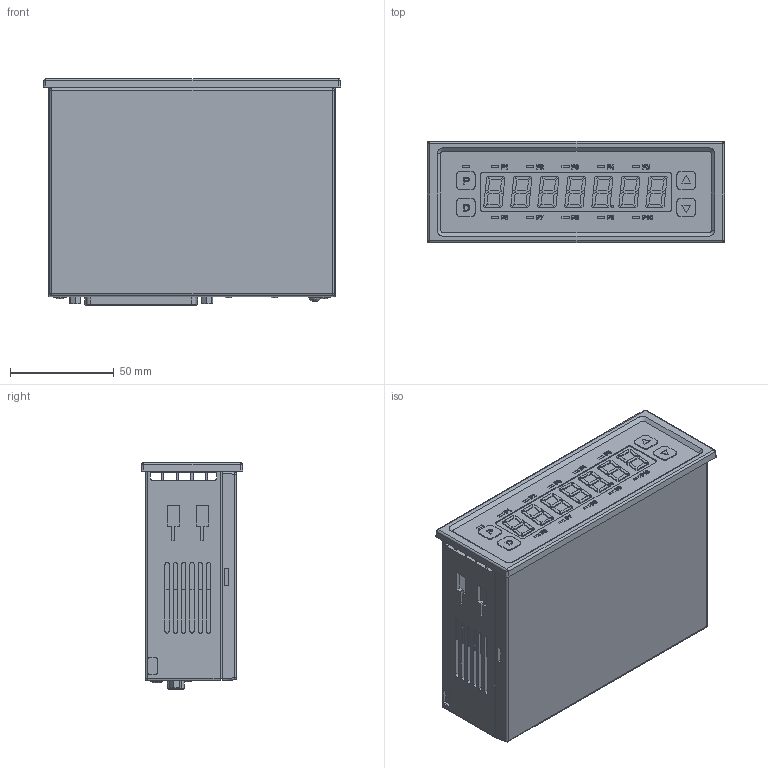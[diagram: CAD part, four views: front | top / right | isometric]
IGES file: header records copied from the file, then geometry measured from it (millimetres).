
Start section: SolidWorks IGES file using analytic representation for surfaces
Bounding box: 143 x 49 x 109 mm (x, y, z)
Surface area: 126062.2 mm2 (no closed solid volume)
Topology: 0 solids, 0 shells, 2120 faces, 17114 edges, 17104 vertices
Faces by surface type: bspline 1674, revolution 446
